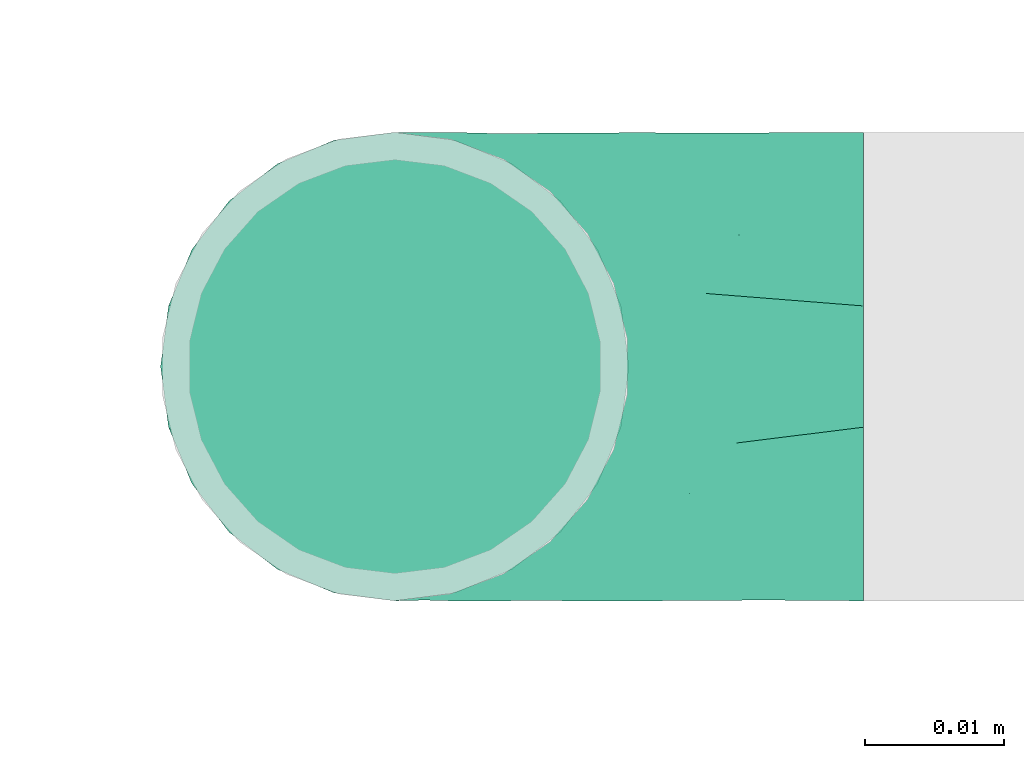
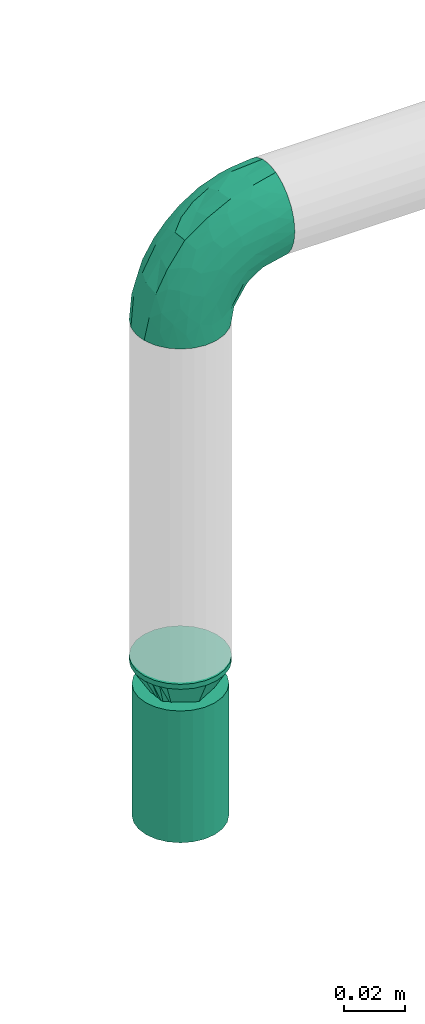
# One storey, part 88 of 157: 2 flow fittings, 1 flow terminal.
"""IFC2X3 building model written with IfcOpenShell, lengths in millimetres."""

from ifc_helpers import new_model, entity, si_unit, converted_unit, derived_unit, direction, frame, origin_with_axes, place, context, subcontext, project, spatial, open_shell, surface_model, source, transform, mapped, type_object, element, save


model = new_model("IFC2X3")

# Units and contexts
model_context = context("Model", 3, precision=0.01, world=frame((0.0, 4.29681676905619e-09, 0.0)), true_north=direction((4.01073788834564e-13, 1.0)))
plan_context = context("Plan", 3, precision=0.01, world=frame((0.0, 4.29681676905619e-09, 0.0)), true_north=direction((4.01073788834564e-13, 1.0)))
body_context = subcontext(model_context, "Body", "Model", "MODEL_VIEW")
ifc_project = project(units=[converted_unit("PLANEANGLEUNIT", "DEGREE", entity("IfcPositiveLengthMeasure", 0.0174532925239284), si_unit("PLANEANGLEUNIT", "RADIAN"), dimensions=[0, 0, 0, 0, 0, 0, 0]), si_unit("AREAUNIT", "SQUARE_METRE"), si_unit("LENGTHUNIT", "METRE", prefix="MILLI"), si_unit("MASSUNIT", "GRAM", prefix="KILO"), si_unit("POWERUNIT", "WATT"), si_unit("PRESSUREUNIT", "PASCAL"), si_unit("FORCEUNIT", "NEWTON", prefix="KILO"), si_unit("ELECTRICCURRENTUNIT", "AMPERE"), si_unit("THERMODYNAMICTEMPERATUREUNIT", "DEGREE_CELSIUS"), si_unit("TIMEUNIT", "SECOND"), si_unit("VOLUMEUNIT", "CUBIC_METRE"), derived_unit("LINEARVELOCITYUNIT", [(si_unit("LENGTHUNIT", "METRE"), 1), (si_unit("TIMEUNIT", "SECOND"), -1)]), derived_unit("VOLUMETRICFLOWRATEUNIT", [(si_unit("VOLUMEUNIT", "CUBIC_METRE"), 1), (si_unit("TIMEUNIT", "SECOND"), -1)]), derived_unit("THERMALTRANSMITTANCEUNIT", [(si_unit("POWERUNIT", "WATT"), 1), (si_unit("THERMODYNAMICTEMPERATUREUNIT", "KELVIN"), -1), (si_unit("AREAUNIT", "SQUARE_METRE"), -1)])], contexts=[model_context, plan_context])

# Site, building, storey
site_placement = place(None, frame((0.0, -4.29681676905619e-09, 0.0), z_axis=(0.0, 0.0, 1.0), x_axis=(1.0, 0.0, 0.0)))
site = spatial("IfcSite", under=ifc_project, at=site_placement, CompositionType="ELEMENT")
building_placement = place(site_placement, frame((0.0, 4.29681676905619e-09, 0.0), z_axis=(0.0, 0.0, 1.0), x_axis=(1.0, 0.0, 0.0)))
building = spatial("IfcBuilding", under=site, at=building_placement, Name="mc-building", CompositionType="ELEMENT")
storey_placement = place(building_placement, frame((0.0, 0.0, 204000.0), z_axis=(0.0, 0.0, 1.0), x_axis=(1.0, 0.0, 0.0)))
storey = spatial("IfcBuildingStorey", under=building, at=storey_placement, Name="Nivå D", CompositionType="ELEMENT", Elevation=204000.0)

# Flow fittings
pipe_fitting_type_1 = type_object("IfcPipeFittingType", Name="magi_pipe_fe_reducer_centric_short_NOR", PredefinedType="TRANSITION")
shared_shape_1 = source(origin_with_axes(), body_context, "Body", "SurfaceModel", [
    surface_model("IfcShellBasedSurfaceModel", [(14.4, 5.35, -9.26647), (14.4, 0.0, -10.7), (14.4, 2.76936, -10.33541), (14.4, 10.33541, -2.76936), (14.4, 7.56604, -7.56604), (14.4, -10.33541, -2.76936), (14.4, 9.26647, -5.35), (14.4, 0.0, 10.7), (14.4, -5.35, -9.26647), (14.4, -2.76936, -10.33541), (14.4, -7.56604, -7.56604), (14.4, -9.26647, -5.35), (14.4, 10.7, 0.0), (14.4, 10.33541, 2.76936), (14.4, 9.26647, 5.35), (14.4, 7.56604, 7.56604), (14.4, 2.76936, 10.33541), (14.4, 5.35, 9.26647), (14.4, -10.33541, 2.76936), (14.4, -7.56604, 7.56604), (14.4, -9.26647, 5.35), (14.4, -10.7, 0.0), (14.4, -2.76936, 10.33541), (14.4, -5.35, 9.26647), (12.4, 2.76936, 10.33541), (12.4, -10.33541, -2.76936), (12.4, 0.0, 10.7), (12.4, 5.35, 9.26647), (12.4, 7.56604, 7.56604), (12.4, 9.26647, 5.35), (12.4, 10.33541, 2.76936), (12.4, -10.33541, 2.76936), (12.4, -2.76936, 10.33541), (12.4, -7.56604, 7.56604), (12.4, -5.35, 9.26647), (12.4, -9.26647, 5.35), (12.4, -10.7, 0.0), (12.4, 10.33541, -2.76936), (12.4, 5.35, -9.26647), (12.4, 9.26647, -5.35), (12.4, 7.56604, -7.56604), (12.4, 2.76936, -10.33541), (12.4, -9.26647, -5.35), (12.4, -5.35, -9.26647), (12.4, -7.56604, -7.56604), (12.4, 0.0, -10.7), (12.4, -2.76936, -10.33541), (12.4, 10.7, 0.0), (-2.0, 11.9501, 11.9501), (-2.0, 0.0, 16.9), (-2.0, 4.37404, 16.32415), (-2.0, 8.45, 14.63583), (-2.0, 14.63583, 8.45), (-2.0, 16.32415, 4.37404), (-2.0, -16.32415, 4.37404), (-2.0, -8.45, 14.63583), (-2.0, -14.63583, 8.45), (-2.0, -11.9501, 11.9501), (-2.0, -4.37404, 16.32415), (-2.0, -16.32415, -4.37404), (-2.0, -16.9, 0.0), (-2.0, -8.45, -14.63583), (-2.0, 16.32415, -4.37404), (-2.0, 11.9501, -11.9501), (-2.0, 14.63583, -8.45), (-2.0, 8.45, -14.63583), (-2.0, 4.37404, -16.32415), (-2.0, 0.0, -16.9), (-2.0, -11.9501, -11.9501), (-2.0, -14.63583, -8.45), (-2.0, -4.37404, -16.32415), (-2.0, 16.9, 0.0), (0.0, 4.37404, -16.32415), (0.0, 8.45, -14.63583), (0.0, 11.9501, -11.9501), (0.0, 0.0, -16.9), (0.0, 16.32415, -4.37404), (0.0, 16.32415, 4.37404), (0.0, 14.63583, -8.45), (0.0, -8.45, -14.63583), (0.0, -4.37404, -16.32415), (0.0, -11.9501, -11.9501), (0.0, -16.32415, -4.37404), (0.0, -14.63583, -8.45), (0.0, -16.32415, 4.37404), (0.0, 16.9, 0.0), (0.0, 14.63583, 8.45), (0.0, 11.9501, 11.9501), (0.0, 4.37404, 16.32415), (0.0, 8.45, 14.63583), (0.0, 0.0, 16.9), (0.0, -14.63583, 8.45), (0.0, -16.9, 0.0), (0.0, -8.45, 14.63583), (0.0, -11.9501, 11.9501), (0.0, -4.37404, 16.32415), (12.4, 9.3625, -2.31662), (0.0, 14.42505, -5.97505), (0.0, 15.66253, -2.98753), (12.4, -6.6875, -6.94985), (0.0, -13.18758, -8.96258), (0.0, 2.98753, -15.66253), (12.4, 0.0, -9.26647), (12.4, 6.6875, -6.94985), (0.0, 8.96258, -13.18758), (12.4, -9.3625, -2.31662), (0.0, -15.66253, -2.98753), (0.0, -14.42505, -5.97505), (0.0, 5.97505, -14.42505), (0.0, -2.98753, -15.66253), (0.0, -8.96258, -13.18758), (0.0, 13.18758, -8.96258), (12.4, 8.025, -4.63324), (12.4, -2.675, -9.26647), (12.4, 2.675, -9.26647), (0.0, -5.97505, -14.42505), (12.4, -8.025, -4.63324), (12.4, -9.3625, 2.31662), (0.0, -14.42505, 5.97505), (0.0, -15.66253, 2.98753), (12.4, 6.6875, 6.94985), (0.0, 13.18758, 8.96258), (0.0, -2.98753, 15.66253), (12.4, 0.0, 9.26647), (12.4, -6.6875, 6.94985), (0.0, -8.96258, 13.18758), (12.4, 9.3625, 2.31662), (0.0, 15.66253, 2.98753), (0.0, 14.42505, 5.97505), (0.0, -5.97505, 14.42505), (0.0, 2.98753, 15.66253), (0.0, 8.96258, 13.18758), (0.0, -13.18758, 8.96258), (12.4, -8.025, 4.63324), (12.4, 2.675, 9.26647), (12.4, -2.675, 9.26647), (0.0, 5.97505, 14.42505), (12.4, 8.025, 4.63324)], [open_shell([[[0, 1, 2]], [[3, 0, 4]], [[5, 0, 3]], [[3, 4, 6]], [[7, 5, 3]], [[1, 8, 9]], [[1, 0, 8]], [[10, 5, 11]], [[5, 10, 8]], [[0, 5, 8]], [[3, 12, 13]], [[13, 14, 15]], [[13, 15, 16]], [[7, 3, 16]], [[16, 15, 17]], [[7, 18, 5]], [[18, 19, 20]], [[21, 5, 18]], [[19, 22, 23]], [[22, 19, 18]], [[7, 22, 18]], [[13, 16, 3]], [[24, 25, 26]], [[27, 25, 24]], [[28, 29, 30]], [[28, 25, 27]], [[31, 26, 25]], [[32, 33, 34]], [[33, 32, 31]], [[33, 31, 35]], [[32, 26, 31]], [[31, 25, 36]], [[30, 37, 28]], [[25, 28, 37]], [[38, 37, 39]], [[37, 38, 25]], [[38, 39, 40]], [[41, 25, 38]], [[42, 43, 44]], [[43, 42, 25]], [[43, 45, 46]], [[43, 25, 41]], [[41, 45, 43]], [[37, 30, 47]], [[25, 5, 36]], [[42, 11, 25]], [[8, 44, 43]], [[42, 44, 10]], [[9, 43, 46]], [[25, 11, 5]], [[5, 21, 36]], [[9, 8, 43]], [[10, 44, 8]], [[10, 11, 42]], [[1, 9, 46]], [[46, 45, 1]], [[41, 2, 45]], [[38, 0, 41]], [[6, 40, 39]], [[38, 40, 4]], [[3, 39, 37]], [[38, 4, 0]], [[0, 2, 41]], [[12, 3, 37]], [[6, 39, 3]], [[6, 4, 40]], [[47, 12, 37]], [[45, 2, 1]], [[30, 13, 47]], [[29, 14, 30]], [[17, 28, 27]], [[29, 28, 15]], [[16, 27, 24]], [[30, 14, 13]], [[13, 12, 47]], [[16, 17, 27]], [[15, 28, 17]], [[15, 14, 29]], [[7, 16, 24]], [[24, 26, 7]], [[32, 22, 26]], [[34, 23, 32]], [[20, 33, 35]], [[34, 33, 19]], [[18, 35, 31]], [[34, 19, 23]], [[23, 22, 32]], [[21, 18, 31]], [[20, 35, 18]], [[20, 19, 33]], [[36, 21, 31]], [[26, 22, 7]], [[48, 49, 50]], [[48, 50, 51]], [[48, 52, 53]], [[48, 53, 49]], [[49, 53, 54]], [[55, 56, 57]], [[55, 58, 49]], [[56, 55, 49]], [[49, 54, 56]], [[54, 59, 60]], [[54, 53, 61]], [[53, 62, 63]], [[63, 62, 64]], [[63, 65, 66]], [[61, 53, 63]], [[67, 63, 66]], [[59, 68, 69]], [[68, 59, 61]], [[61, 67, 70]], [[59, 54, 61]], [[63, 67, 61]], [[53, 71, 62]], [[72, 73, 74]], [[75, 72, 74]], [[74, 76, 77]], [[76, 74, 78]], [[74, 77, 79]], [[75, 79, 80]], [[75, 74, 79]], [[81, 82, 83]], [[82, 81, 79]], [[79, 84, 82]], [[77, 76, 85]], [[77, 86, 87]], [[77, 87, 88]], [[88, 84, 79]], [[88, 87, 89]], [[84, 88, 90]], [[90, 91, 84]], [[92, 82, 84]], [[91, 93, 94]], [[91, 90, 93]], [[93, 90, 95]], [[79, 77, 88]], [[59, 82, 60]], [[69, 83, 59]], [[79, 68, 61]], [[69, 68, 81]], [[80, 61, 70]], [[59, 83, 82]], [[82, 92, 60]], [[80, 79, 61]], [[81, 68, 79]], [[81, 83, 69]], [[75, 80, 70]], [[70, 67, 75]], [[66, 72, 67]], [[65, 73, 66]], [[78, 63, 64]], [[65, 63, 74]], [[76, 64, 62]], [[65, 74, 73]], [[73, 72, 66]], [[85, 76, 62]], [[78, 64, 76]], [[78, 74, 63]], [[71, 85, 62]], [[67, 72, 75]], [[53, 77, 71]], [[52, 86, 53]], [[89, 48, 51]], [[52, 48, 87]], [[88, 51, 50]], [[53, 86, 77]], [[77, 85, 71]], [[88, 89, 51]], [[87, 48, 89]], [[87, 86, 52]], [[90, 88, 50]], [[50, 49, 90]], [[58, 95, 49]], [[55, 93, 58]], [[91, 57, 56]], [[55, 57, 94]], [[84, 56, 54]], [[55, 94, 93]], [[93, 95, 58]], [[92, 84, 54]], [[91, 56, 84]], [[91, 94, 57]], [[60, 92, 54]], [[49, 95, 90]], [[27, 34, 47]], [[47, 34, 43]], [[43, 38, 47]], [[43, 34, 36]], [[90, 87, 94]], [[92, 94, 87]], [[87, 74, 92]], [[75, 92, 74]], [[81, 92, 75]], [[74, 87, 85]], [[96, 97, 98]], [[81, 99, 100]], [[101, 102, 75]], [[98, 85, 47]], [[74, 103, 104]], [[104, 103, 38]], [[105, 106, 107]], [[38, 108, 104]], [[102, 109, 75]], [[110, 99, 81]], [[47, 96, 98]], [[103, 111, 112]], [[109, 102, 113]], [[36, 92, 106]], [[102, 101, 114]], [[110, 115, 43]], [[96, 112, 97]], [[107, 116, 105]], [[36, 106, 105]], [[113, 115, 109]], [[43, 115, 113]], [[116, 107, 100]], [[108, 38, 114]], [[111, 103, 74]], [[111, 97, 112]], [[99, 110, 43]], [[116, 100, 99]], [[101, 108, 114]], [[117, 118, 119]], [[87, 120, 121]], [[122, 123, 90]], [[119, 92, 36]], [[94, 124, 125]], [[125, 124, 34]], [[126, 127, 128]], [[34, 129, 125]], [[123, 130, 90]], [[131, 120, 87]], [[36, 117, 119]], [[124, 132, 133]], [[130, 123, 134]], [[47, 85, 127]], [[123, 122, 135]], [[131, 136, 27]], [[117, 133, 118]], [[128, 137, 126]], [[47, 127, 126]], [[134, 136, 130]], [[27, 136, 134]], [[137, 128, 121]], [[129, 34, 135]], [[132, 124, 94]], [[132, 118, 133]], [[120, 131, 27]], [[137, 121, 120]], [[122, 129, 135]]])]),
])
flow_fitting_1_placement = place(storey_placement, frame((524500.0, 410600.0, 2709.35200000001), z_axis=(1.0, 0.0, 0.0), x_axis=(0.0, 0.0, -1.0)))
element("IfcFlowFitting", 1, at=flow_fitting_1_placement, inside=storey, type_object=pipe_fitting_type_1, Name="magi_pipe_fe_reducer_centric_short_NOR", context=body_context, shape_type="MappedRepresentation", body=[
    mapped(shared_shape_1, transform((0.0, 0.0, 0.0), scale=1.0)),
])
pipe_fitting_type_2 = type_object("IfcPipeFittingType", Name="magi_pipe_fe_elbow_short_001", PredefinedType="BEND")
shared_shape_2 = source(origin_with_axes(), body_context, "Body", "SurfaceModel", [
    surface_model("IfcShellBasedSurfaceModel", [(-33.8, 8.45, -14.63583), (-33.8, 4.37404, -16.32415), (-33.8, 11.9501, -11.9501), (-33.8, -11.9501, -11.9501), (-33.8, -14.63583, -8.45), (-33.8, -8.45, -14.63583), (-33.8, 0.0, -16.9), (-33.8, -4.37404, -16.32415), (-33.8, -4.37404, 16.32415), (-33.8, 0.0, 16.9), (-33.8, -8.45, 14.63583), (-33.8, 16.32415, -4.37404), (-33.8, 14.63583, -8.45), (-33.8, -16.32415, -4.37404), (-33.8, -16.9, 0.0), (-33.8, -16.32415, 4.37404), (-33.8, 11.9501, 11.9501), (-33.8, 14.63583, 8.45), (-33.8, 16.32415, 4.37404), (-33.8, 4.37404, 16.32415), (-33.8, 8.45, 14.63583), (-33.8, -14.63583, 8.45), (-33.8, -11.9501, 11.9501), (-33.8, 16.9, 0.0), (-11.9501, 33.8, -11.9501), (0.0, 33.8, -16.9), (-4.37404, 33.8, -16.32415), (-8.45, 33.8, -14.63583), (-14.63583, 33.8, -8.45), (-16.32415, 33.8, -4.37404), (14.63583, 33.8, -8.45), (8.45, 33.8, 14.63583), (16.32415, 33.8, -4.37404), (8.45, 33.8, -14.63583), (11.9501, 33.8, -11.9501), (4.37404, 33.8, -16.32415), (16.32415, 33.8, 4.37404), (16.9, 33.8, 0.0), (-11.9501, 33.8, 11.9501), (-16.32415, 33.8, 4.37404), (-14.63583, 33.8, 8.45), (-8.45, 33.8, 14.63583), (-4.37404, 33.8, 16.32415), (11.9501, 33.8, 11.9501), (14.63583, 33.8, 8.45), (0.0, 33.8, 16.9), (4.37404, 33.8, 16.32415), (-16.9, 33.8, 0.0), (-24.79389, -13.12945, 9.48721), (-22.19287, -9.75018, 12.59315), (-24.09897, -14.97035, 0.0), (-14.93934, -10.76256, 8.5297), (-22.46095, -14.75051, 5.27077), (14.75051, 22.46094, 5.27077), (11.9251, 13.23888, 4.33236), (13.04069, 14.39795, 0.0), (7.71387, 13.68847, 11.55891), (9.75018, 22.19287, 12.59315), (4.10169, 13.0571, 14.04018), (-24.84007, -6.39063, 15.2048), (-25.81779, -2.23879, 16.61097), (-23.66549, 2.59054, 16.87119), (-26.50418, 14.06512, 11.08152), (-24.21253, 17.66365, 7.72657), (-29.58514, 15.86957, 7.00283), (-6.17382, -7.5455, 0.0), (-13.23888, -11.9251, 4.33236), (-14.39795, -13.04069, 0.0), (-17.81434, 18.87373, 11.97104), (-6.30846, 29.15138, 15.82987), (-2.31622, 25.28002, 16.85849), (-29.23923, 10.23435, 13.77053), (-1.45439, -2.85688, 7.61475), (-0.28326, 0.34872, 10.09509), (-5.74484, -4.04709, 10.4122), (-4.41137, 11.31918, 16.59407), (-8.39727, 3.10034, 15.7812), (-1.72649, 9.1306, 15.53089), (-17.39909, 24.75344, 7.64977), (-26.19233, 20.0512, 0.0), (-28.14518, 17.29657, 4.25857), (-26.05147, 6.6281, 15.96447), (-5.87354, 16.61944, 16.86968), (-12.51807, 12.51807, 16.48937), (-10.06312, 7.38516, 16.81295), (-3.01882, 3.01882, 13.81718), (-13.0571, -4.10169, 14.04018), (-16.82553, -0.15166, 16.38038), (10.76256, 14.93934, 8.5297), (13.12945, 24.79389, 9.48721), (6.39063, 24.84007, 15.2048), (2.23879, 25.81779, 16.61097), (-13.68847, -7.71387, 11.55891), (14.97035, 24.09897, 0.0), (-7.30894, 22.89991, 16.09489), (-10.67958, 26.17414, 14.008), (-12.78295, 18.26924, 15.06066), (-13.88562, 22.45231, 12.93244), (-18.04944, 15.16501, 14.04434), (-23.11658, 20.08178, 4.02986), (-21.84989, 21.84989, 0.0), (-18.55817, 25.48277, 3.93065), (-13.95142, 26.94732, 11.03289), (-18.57098, 7.23906, 16.59756), (-16.58335, 4.14122, 16.89279), (-17.96666, 11.46709, 15.63151), (-9.84453, 17.54304, 16.18938), (0.15166, 16.82553, 16.38038), (-23.27207, 11.47201, 14.23154), (3.84842, 5.86994, 10.70473), (-8.0212, -7.54413, 7.93275), (1.00345, -2.19508, 4.57414), (5.13203, 3.01004, 5.90201), (5.24161, 1.7543, 2.53265), (8.70457, 7.04947, 3.99182), (-20.0512, 26.19233, 0.0), (8.4852, 8.76699, 7.09296), (-4.55488, -6.72064, 4.90681), (2.05031, -2.05031, 0.0), (7.5455, 6.17382, 0.0), (-26.75399, 2.1369, -16.845), (-14.61995, 24.73803, -11.27736), (-28.45274, -13.45335, -9.81895), (-26.00469, 6.63555, -15.96645), (-23.06726, 20.04573, -4.26202), (-13.80647, -4.26506, -14.17873), (-14.67501, -0.21081, -16.07388), (-6.7902, -0.2828, -13.8478), (-24.53586, 11.08096, -14.13417), (-26.72048, 14.00837, -11.05776), (10.0967, 24.44989, -12.75976), (5.83237, 21.40218, -15.03047), (6.66249, 28.54238, -15.38093), (-20.38182, 15.48705, -12.74596), (12.53268, 21.23441, -9.15363), (12.54494, 15.67504, -5.54878), (9.7522, 12.89279, -8.66343), (-15.65186, 19.64213, -13.01327), (-12.03528, 20.66498, -14.67665), (-15.61907, 15.61906, -14.83879), (-25.56551, -15.26206, 0.0), (-24.65452, -15.12934, -5.50955), (13.45335, 28.45274, -9.81895), (15.12934, 24.65452, -5.50955), (-7.35442, -8.31014, -5.65563), (-15.67504, -12.54494, -5.54878), (-24.44989, -10.0967, -12.75976), (0.16522, 0.41303, -9.71728), (-5.70658, -5.33066, -8.89288), (-5.13869, -2.37198, -11.53565), (-21.23441, -12.53268, -9.15363), (0.71146, 7.93863, -14.09382), (0.21081, 14.67501, -16.07388), (3.49291, 14.42772, -14.76381), (-24.89911, -2.13088, -16.591), (-28.54238, -6.66249, -15.38093), (-18.44386, -7.71663, -13.26957), (2.13088, 24.89911, -16.591), (-28.64342, 17.44413, -2.89318), (1.70017, -1.28722, -5.09504), (-16.57067, 26.81947, -7.36596), (-17.69055, 27.4263, -3.76405), (-12.89279, -9.7522, -8.66343), (-5.96611, 5.96611, -15.95814), (-20.53709, 20.09345, -8.28985), (-2.1369, 26.75399, -16.845), (-6.89872, 24.58781, -16.02578), (-10.60739, 26.53157, -13.98044), (-21.40218, -5.83237, -15.03047), (2.93192, 5.89627, -11.55917), (6.89393, 12.61842, -11.82233), (5.58056, 5.95325, -8.79455), (-3.99512, 18.61798, -16.89635), (8.31014, 7.35442, -5.65563), (-9.1383, 9.86148, -16.89041), (-9.99983, 16.02119, -16.39699), (-16.68576, 9.78031, -16.34199), (-27.01915, 16.61158, -7.12979), (15.26206, 25.56551, 0.0), (-18.61798, 3.99512, -16.89635), (-19.37495, 27.82495, 0.0), (-12.61842, -6.89393, -11.82233), (-18.84705, 19.14018, -10.96545)], [open_shell([[[0, 1, 2]], [[3, 4, 5]], [[6, 7, 5]], [[8, 9, 10]], [[1, 6, 2]], [[11, 12, 2]], [[4, 2, 6]], [[2, 13, 10]], [[5, 4, 6]], [[2, 4, 13]], [[14, 15, 13]], [[11, 2, 16]], [[11, 17, 18]], [[11, 16, 17]], [[19, 20, 16]], [[16, 2, 10]], [[19, 16, 10]], [[21, 22, 15]], [[22, 13, 15]], [[22, 10, 13]], [[10, 9, 19]], [[11, 18, 23]], [[24, 25, 26]], [[24, 26, 27]], [[24, 28, 29]], [[25, 24, 30]], [[31, 32, 24]], [[33, 30, 34]], [[33, 35, 25]], [[25, 30, 33]], [[32, 30, 24]], [[32, 36, 37]], [[38, 24, 29]], [[39, 40, 29]], [[40, 38, 29]], [[38, 41, 42]], [[38, 31, 24]], [[31, 38, 42]], [[36, 43, 44]], [[36, 32, 43]], [[31, 45, 46]], [[32, 31, 43]], [[42, 45, 31]], [[39, 29, 47]], [[22, 48, 49]], [[15, 14, 50]], [[51, 48, 52]], [[53, 54, 55]], [[48, 22, 21]], [[15, 52, 21]], [[56, 57, 58]], [[49, 10, 22]], [[49, 59, 10]], [[9, 60, 61]], [[62, 63, 64]], [[65, 66, 67]], [[57, 43, 31]], [[62, 68, 63]], [[42, 69, 70]], [[20, 71, 16]], [[8, 60, 9]], [[72, 73, 74]], [[75, 76, 77]], [[16, 62, 17]], [[40, 39, 78]], [[79, 23, 80]], [[64, 18, 17]], [[9, 61, 19]], [[19, 81, 20]], [[82, 83, 84]], [[74, 85, 86]], [[59, 86, 87]], [[88, 89, 57]], [[90, 31, 46]], [[44, 53, 36]], [[46, 45, 91]], [[54, 53, 88]], [[44, 89, 53]], [[92, 86, 49]], [[89, 44, 43]], [[10, 59, 8]], [[53, 55, 93]], [[93, 36, 53]], [[66, 52, 67]], [[94, 82, 70]], [[95, 96, 94]], [[97, 98, 96]], [[79, 99, 100]], [[41, 38, 95]], [[101, 100, 99]], [[68, 78, 63]], [[42, 41, 69]], [[23, 18, 80]], [[95, 94, 69]], [[78, 101, 99]], [[38, 102, 95]], [[70, 45, 42]], [[97, 95, 102]], [[15, 50, 52]], [[90, 57, 31]], [[57, 90, 58]], [[81, 19, 61]], [[103, 104, 84]], [[105, 81, 103]], [[38, 40, 102]], [[106, 96, 83]], [[94, 106, 82]], [[91, 70, 107]], [[71, 62, 16]], [[62, 108, 98]], [[86, 59, 49]], [[67, 52, 50]], [[60, 59, 87]], [[92, 49, 51]], [[86, 85, 76]], [[91, 90, 46]], [[37, 36, 93]], [[107, 77, 58]], [[107, 58, 90]], [[58, 85, 109]], [[110, 74, 92]], [[72, 74, 110]], [[66, 51, 52]], [[72, 111, 112]], [[113, 114, 112]], [[56, 88, 57]], [[52, 48, 21]], [[49, 48, 51]], [[57, 89, 43]], [[53, 89, 88]], [[103, 81, 61]], [[71, 81, 108]], [[18, 64, 80]], [[63, 78, 99]], [[47, 115, 101]], [[101, 115, 100]], [[40, 78, 102]], [[68, 102, 78]], [[97, 96, 95]], [[105, 98, 108]], [[103, 84, 83]], [[107, 70, 82]], [[76, 84, 87]], [[82, 84, 75]], [[70, 91, 45]], [[90, 91, 107]], [[59, 60, 8]], [[61, 60, 87]], [[73, 85, 74]], [[109, 112, 116]], [[103, 61, 104]], [[105, 103, 83]], [[96, 105, 83]], [[81, 105, 108]], [[96, 98, 105]], [[62, 98, 68]], [[61, 87, 104]], [[87, 84, 104]], [[86, 76, 87]], [[77, 76, 85]], [[58, 77, 85]], [[75, 77, 107]], [[82, 75, 107]], [[76, 75, 84]], [[81, 71, 20]], [[62, 71, 108]], [[95, 69, 41]], [[70, 69, 94]], [[62, 64, 17]], [[80, 63, 99]], [[63, 80, 64]], [[80, 99, 79]], [[66, 65, 117]], [[110, 66, 117]], [[112, 114, 116]], [[118, 117, 65]], [[110, 92, 51]], [[112, 111, 113]], [[119, 55, 54]], [[74, 86, 92]], [[58, 109, 56]], [[116, 56, 109]], [[66, 110, 51]], [[72, 110, 117]], [[111, 72, 117]], [[73, 112, 109]], [[117, 118, 111]], [[113, 111, 118]], [[118, 119, 113]], [[114, 119, 54]], [[119, 114, 113]], [[116, 54, 88]], [[54, 116, 114]], [[116, 88, 56]], [[112, 73, 72]], [[85, 73, 109]], [[78, 39, 101]], [[47, 101, 39]], [[102, 68, 97]], [[97, 68, 98]], [[82, 106, 83]], [[94, 96, 106]], [[1, 120, 6]], [[28, 24, 121]], [[3, 122, 4]], [[0, 123, 1]], [[100, 124, 79]], [[125, 126, 127]], [[128, 2, 129]], [[130, 131, 132]], [[128, 129, 133]], [[134, 135, 136]], [[137, 138, 139]], [[128, 0, 2]], [[67, 140, 141]], [[134, 142, 143]], [[141, 13, 4]], [[144, 65, 145]], [[146, 3, 5]], [[147, 148, 149]], [[145, 141, 150]], [[151, 152, 153]], [[154, 7, 6]], [[5, 155, 146]], [[150, 146, 156]], [[155, 5, 7]], [[143, 135, 134]], [[35, 157, 25]], [[23, 79, 158]], [[148, 159, 144]], [[160, 161, 29]], [[145, 162, 144]], [[163, 152, 151]], [[29, 28, 160]], [[121, 164, 160]], [[33, 34, 130]], [[25, 165, 26]], [[26, 165, 166]], [[142, 34, 30]], [[24, 27, 167]], [[124, 161, 164]], [[157, 35, 132]], [[155, 154, 168]], [[123, 0, 128]], [[169, 170, 171]], [[172, 157, 152]], [[26, 166, 27]], [[132, 35, 33]], [[142, 130, 34]], [[168, 154, 126]], [[136, 135, 173]], [[133, 137, 139]], [[2, 12, 129]], [[170, 131, 130]], [[30, 32, 143]], [[172, 174, 175]], [[176, 123, 128]], [[158, 177, 11]], [[135, 55, 119]], [[167, 27, 166]], [[175, 166, 172]], [[137, 167, 138]], [[122, 141, 4]], [[140, 14, 13]], [[32, 37, 178]], [[170, 130, 134]], [[152, 157, 131]], [[165, 157, 172]], [[153, 170, 151]], [[152, 163, 174]], [[168, 125, 156]], [[122, 146, 150]], [[120, 154, 6]], [[179, 174, 126]], [[179, 126, 154]], [[126, 163, 127]], [[162, 145, 150]], [[140, 13, 141]], [[32, 178, 143]], [[55, 143, 178]], [[177, 129, 12]], [[128, 133, 139]], [[176, 128, 139]], [[120, 123, 179]], [[121, 160, 28]], [[161, 100, 180]], [[166, 175, 138]], [[121, 24, 167]], [[161, 47, 29]], [[79, 124, 158]], [[124, 164, 177]], [[161, 124, 100]], [[136, 171, 170]], [[127, 163, 151]], [[147, 171, 159]], [[148, 144, 162]], [[127, 151, 169]], [[127, 181, 125]], [[129, 177, 164]], [[12, 11, 177]], [[159, 65, 144]], [[67, 141, 145]], [[143, 55, 135]], [[135, 119, 173]], [[123, 120, 1]], [[154, 120, 179]], [[157, 165, 25]], [[166, 165, 172]], [[172, 152, 174]], [[176, 139, 175]], [[126, 174, 163]], [[176, 174, 179]], [[174, 176, 175]], [[123, 176, 179]], [[150, 181, 162]], [[127, 149, 181]], [[181, 148, 162]], [[159, 148, 147]], [[171, 136, 173]], [[170, 134, 136]], [[159, 171, 173]], [[171, 147, 169]], [[169, 147, 149]], [[151, 170, 169]], [[164, 182, 129]], [[182, 121, 137]], [[181, 149, 148]], [[169, 149, 127]], [[182, 137, 133]], [[167, 137, 121]], [[166, 138, 167]], [[175, 139, 138]], [[129, 182, 133]], [[121, 182, 164]], [[161, 160, 164]], [[47, 161, 180]], [[177, 158, 124]], [[23, 158, 11]], [[130, 132, 33]], [[157, 132, 131]], [[143, 142, 30]], [[130, 142, 134]], [[154, 155, 7]], [[146, 155, 168]], [[146, 122, 3]], [[141, 122, 150]], [[152, 131, 153]], [[159, 119, 118]], [[67, 145, 65]], [[170, 153, 131]], [[119, 159, 173]], [[159, 118, 65]], [[156, 125, 181]], [[126, 125, 168]], [[150, 156, 181]], [[168, 156, 146]]])]),
])
flow_fitting_2_placement = place(storey_placement, frame((524500.0, 410600.0, 2880.0), z_axis=(0.0, 1.0, 0.0), x_axis=(0.0, 0.0, 1.0)))
element("IfcFlowFitting", 2, at=flow_fitting_2_placement, inside=storey, type_object=pipe_fitting_type_2, Name="magi_pipe_fe_elbow_short_001", context=body_context, shape_type="MappedRepresentation", body=[
    mapped(shared_shape_2, transform((0.0, 0.0, 0.0), scale=1.0)),
])

# Flow terminal
fire_suppression_terminal_type = type_object("IfcFireSuppressionTerminalType", Name="SP-15-K80-68DGR-STD-HIMLING", PredefinedType="NOTDEFINED")
shared_shape_3 = source(origin_with_axes(), body_context, "Body", "SurfaceModel", [
    surface_model("IfcShellBasedSurfaceModel", [(4.1411, -15.45481, 53.0), (8.0, -13.85641, 53.0), (11.31371, -11.31371, 53.0), (-8.0, -13.85641, 53.0), (15.45481, -4.1411, 53.0), (16.0, 0.0, 53.0), (13.85641, -8.0, 53.0), (0.0, -16.0, 53.0), (-4.1411, -15.45481, 53.0), (-13.85641, -8.0, 53.0), (-11.31371, -11.31371, 53.0), (-15.45481, -4.1411, 53.0), (15.45481, 4.1411, 53.0), (13.85641, 8.0, 53.0), (11.31371, 11.31371, 53.0), (-4.1411, 15.45481, 53.0), (8.0, 13.85641, 53.0), (4.1411, 15.45481, 53.0), (0.0, 16.0, 53.0), (-13.85641, 8.0, 53.0), (-15.45481, 4.1411, 53.0), (-16.0, 0.0, 53.0), (-11.31371, 11.31371, 53.0), (-8.0, 13.85641, 53.0), (0.0, 16.0, 0.0), (4.1411, 15.45481, 0.0), (8.0, 13.85641, 0.0), (-4.1411, 15.45481, 0.0), (11.31371, 11.31371, 0.0), (13.85641, 8.0, 0.0), (15.45481, 4.1411, 0.0), (-15.45481, -4.1411, 0.0), (-11.31371, 11.31371, 0.0), (-8.0, 13.85641, 0.0), (-13.85641, 8.0, 0.0), (-15.45481, 4.1411, 0.0), (-16.0, 0.0, 0.0), (4.1411, -15.45481, 0.0), (16.0, 0.0, 0.0), (15.45481, -4.1411, 0.0), (13.85641, -8.0, 0.0), (11.31371, -11.31371, 0.0), (8.0, -13.85641, 0.0), (-8.0, -13.85641, 0.0), (-13.85641, -8.0, 0.0), (-11.31371, -11.31371, 0.0), (0.0, -16.0, 0.0), (-4.1411, -15.45481, 0.0)], [open_shell([[[0, 1, 2]], [[3, 0, 2]], [[4, 5, 2]], [[4, 2, 6]], [[3, 2, 5]], [[7, 3, 8]], [[7, 0, 3]], [[3, 9, 10]], [[9, 3, 11]], [[5, 11, 3]], [[5, 12, 11]], [[12, 13, 14]], [[15, 12, 14]], [[16, 17, 18]], [[14, 16, 15]], [[18, 15, 16]], [[11, 19, 20]], [[21, 11, 20]], [[22, 15, 23]], [[15, 22, 19]], [[19, 11, 15]], [[11, 12, 15]], [[24, 25, 26]], [[27, 24, 26]], [[28, 29, 30]], [[27, 26, 28]], [[27, 28, 31]], [[27, 32, 33]], [[32, 27, 34]], [[34, 31, 35]], [[31, 34, 27]], [[35, 31, 36]], [[28, 30, 31]], [[37, 38, 39]], [[37, 39, 40]], [[41, 42, 37]], [[41, 37, 40]], [[38, 37, 43]], [[44, 43, 45]], [[43, 44, 31]], [[43, 46, 47]], [[43, 31, 38]], [[37, 46, 43]], [[38, 31, 30]], [[11, 31, 44]], [[45, 9, 44]], [[3, 43, 47]], [[45, 43, 10]], [[8, 47, 46]], [[31, 21, 36]], [[31, 11, 21]], [[44, 9, 11]], [[45, 10, 9]], [[3, 10, 43]], [[47, 8, 3]], [[46, 7, 8]], [[0, 37, 42]], [[41, 1, 42]], [[6, 40, 39]], [[41, 40, 2]], [[4, 39, 38]], [[37, 0, 7]], [[42, 1, 0]], [[41, 2, 1]], [[40, 6, 2]], [[4, 6, 39]], [[38, 5, 4]], [[37, 7, 46]], [[12, 38, 30]], [[13, 30, 29]], [[16, 26, 25]], [[17, 25, 24]], [[30, 13, 12]], [[12, 5, 38]], [[28, 14, 13]], [[28, 26, 14]], [[14, 26, 16]], [[25, 17, 16]], [[28, 13, 29]], [[24, 18, 17]], [[15, 27, 33]], [[32, 23, 33]], [[19, 34, 35]], [[32, 34, 22]], [[20, 35, 36]], [[27, 15, 18]], [[33, 23, 15]], [[32, 22, 23]], [[34, 19, 22]], [[20, 19, 35]], [[36, 21, 20]], [[27, 18, 24]]])]),
])
flow_terminal_placement = place(storey_placement, frame((524500.0, 410600.0, 2700.0), z_axis=(0.0, 0.0, -1.0), x_axis=(1.0, 0.0, 0.0)))
element("IfcFlowTerminal", 3, at=flow_terminal_placement, inside=storey, type_object=fire_suppression_terminal_type, Name="SP-15-K80-68DGR-STD-HIMLING", context=body_context, shape_type="MappedRepresentation", body=[
    mapped(shared_shape_3, transform((0.0, 0.0, 0.0), scale=1.0)),
])

save(model, "model.ifc")
